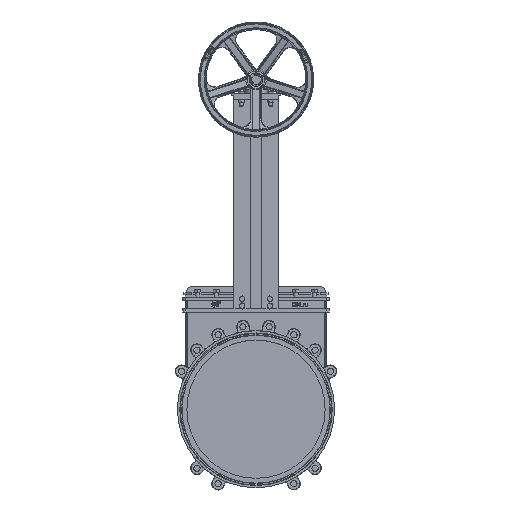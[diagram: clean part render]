
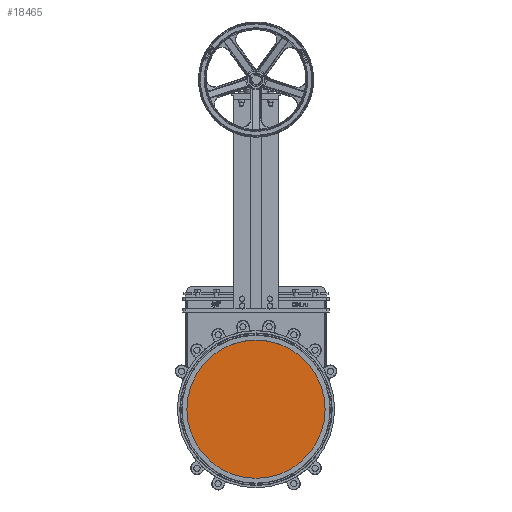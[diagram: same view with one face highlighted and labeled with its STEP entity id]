
A CAD part, top view. The second image highlights one B-rep face of the part: STEP entity #18465.
In plain terms, the highlighted planar face has unit normal (0, 0, 1).
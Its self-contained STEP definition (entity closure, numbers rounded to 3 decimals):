
#18465=ADVANCED_FACE('',(#42050),#42052,.T.);
#42050=FACE_BOUND('',#42051,.T.);
#42051=EDGE_LOOP('',(#52585));
#42052=PLANE('',#42053);
#42053=AXIS2_PLACEMENT_3D('',#42054,#42055,#42056);
#42054=CARTESIAN_POINT('',(0.,0.,5.));
#42055=DIRECTION('',(0.,0.,1.));
#42056=DIRECTION('',(1.,0.,0.));
#52585=ORIENTED_EDGE('',*,*,#57621,.T.);
#57621=EDGE_CURVE('',#65869,#65869,#65870,.F.);
#65869=VERTEX_POINT('',#121640);
#65870=CIRCLE('',#121641,300.);
#121640=CARTESIAN_POINT('',(0.,300.,5.));
#121641=AXIS2_PLACEMENT_3D('',#121642,#121643,#121644);
#121642=CARTESIAN_POINT('',(0.,0.,5.));
#121643=DIRECTION('',(0.,0.,-1.));
#121644=DIRECTION('',(0.,1.,0.));
